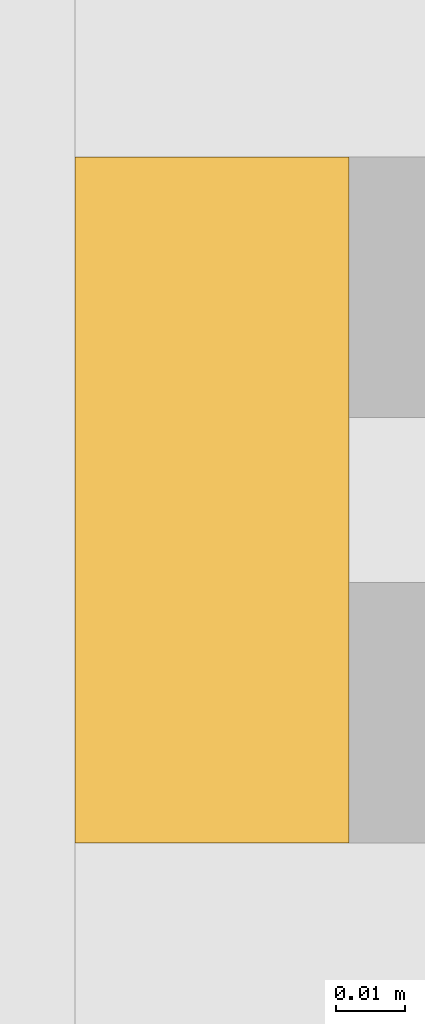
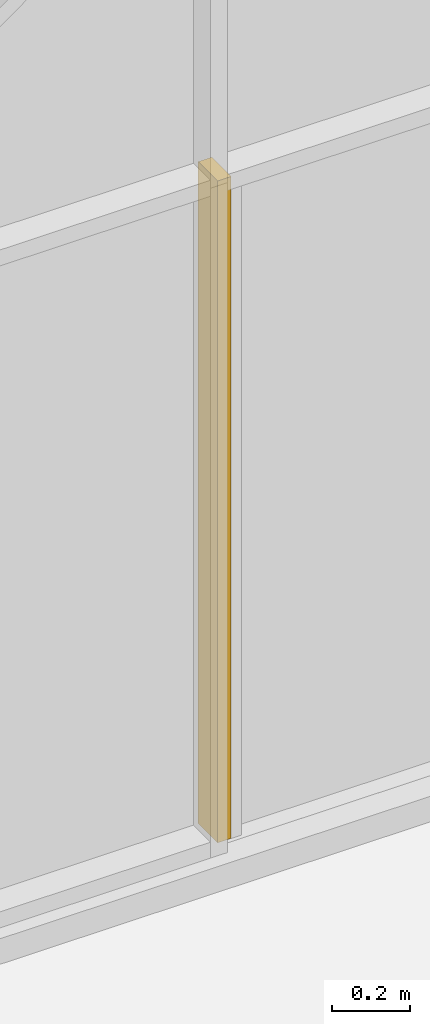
# One storey, part 74 of 100: 1 curtain wall, 1 opening, 1 element without a shape of its own.
"""IFC2X3 building model written with IfcOpenShell, lengths in millimetres."""

from ifc_helpers import new_model, entity, si_unit, converted_unit, derived_unit, direction, frame, frame_2d, origin, place, context, subcontext, project, spatial, rectangle, extrude, material, layer, layer_set, layer_usage, type_object, element, aggregate, save


model = new_model("IFC2X3")

# Units and contexts
model_context = context("Model", 3, precision=0.01, world=origin(), true_north=direction((6.123031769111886e-17, 1.0)))
body_context = subcontext(model_context, "Body", "Model", "MODEL_VIEW")
ifc_project = project(units=[si_unit("LENGTHUNIT", "METRE", prefix="MILLI"), si_unit("AREAUNIT", "SQUARE_METRE"), si_unit("VOLUMEUNIT", "CUBIC_METRE"), converted_unit("PLANEANGLEUNIT", "DEGREE", entity("IfcRatioMeasure", 0.017453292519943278), si_unit("PLANEANGLEUNIT", "RADIAN"), dimensions=[0, 0, 0, 0, 0, 0, 0]), si_unit("MASSUNIT", "GRAM", prefix="KILO"), derived_unit("MASSDENSITYUNIT", [(si_unit("MASSUNIT", "GRAM", prefix="KILO"), 1), (si_unit("LENGTHUNIT", "METRE"), -3)]), derived_unit("MOMENTOFINERTIAUNIT", [(si_unit("LENGTHUNIT", "METRE"), 4)]), si_unit("TIMEUNIT", "SECOND"), si_unit("FREQUENCYUNIT", "HERTZ"), si_unit("THERMODYNAMICTEMPERATUREUNIT", "DEGREE_CELSIUS"), derived_unit("THERMALTRANSMITTANCEUNIT", [(si_unit("MASSUNIT", "GRAM", prefix="KILO"), 1), (si_unit("THERMODYNAMICTEMPERATUREUNIT", "KELVIN"), -1), (si_unit("TIMEUNIT", "SECOND"), -3)]), derived_unit("VOLUMETRICFLOWRATEUNIT", [(si_unit("LENGTHUNIT", "METRE"), 3), (si_unit("TIMEUNIT", "SECOND"), -1)]), derived_unit("MASSFLOWRATEUNIT", [(si_unit("MASSUNIT", "GRAM", prefix="KILO"), 1), (si_unit("TIMEUNIT", "SECOND"), -1)]), derived_unit("ROTATIONALFREQUENCYUNIT", [(si_unit("TIMEUNIT", "SECOND"), -1)]), si_unit("ELECTRICCURRENTUNIT", "AMPERE"), si_unit("ELECTRICVOLTAGEUNIT", "VOLT"), si_unit("POWERUNIT", "WATT"), si_unit("FORCEUNIT", "NEWTON", prefix="KILO"), si_unit("ILLUMINANCEUNIT", "LUX"), si_unit("LUMINOUSFLUXUNIT", "LUMEN"), si_unit("LUMINOUSINTENSITYUNIT", "CANDELA"), derived_unit("USERDEFINED", [(si_unit("MASSUNIT", "GRAM", prefix="KILO"), -1), (si_unit("LENGTHUNIT", "METRE"), -2), (si_unit("TIMEUNIT", "SECOND"), 3), (si_unit("LUMINOUSFLUXUNIT", "LUMEN"), 1)]), derived_unit("SOUNDPOWERUNIT", [(si_unit("MASSUNIT", "GRAM", prefix="KILO"), 1), (si_unit("LENGTHUNIT", "METRE"), 2), (si_unit("TIMEUNIT", "SECOND"), -3)]), derived_unit("SOUNDPRESSUREUNIT", [(si_unit("MASSUNIT", "GRAM", prefix="KILO"), 1), (si_unit("LENGTHUNIT", "METRE"), -1), (si_unit("TIMEUNIT", "SECOND"), -2)]), derived_unit("LINEARVELOCITYUNIT", [(si_unit("LENGTHUNIT", "METRE"), 1), (si_unit("TIMEUNIT", "SECOND"), -1)]), si_unit("PRESSUREUNIT", "PASCAL"), derived_unit("USERDEFINED", [(si_unit("LENGTHUNIT", "METRE"), -2), (si_unit("MASSUNIT", "GRAM", prefix="KILO"), 1), (si_unit("TIMEUNIT", "SECOND"), -2)]), derived_unit("LINEARFORCEUNIT", [(si_unit("MASSUNIT", "GRAM", prefix="KILO"), 1), (si_unit("LENGTHUNIT", "METRE"), 1), (si_unit("TIMEUNIT", "SECOND"), -2), (si_unit("LENGTHUNIT", "METRE"), -1)]), derived_unit("PLANARFORCEUNIT", [(si_unit("MASSUNIT", "GRAM", prefix="KILO"), 1), (si_unit("LENGTHUNIT", "METRE"), 1), (si_unit("TIMEUNIT", "SECOND"), -2), (si_unit("LENGTHUNIT", "METRE"), -2)])], contexts=[model_context])

# Site, building, storey
site_placement = place(None, frame((-14167.972527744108, -657.2125860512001, 0.0)))
site = spatial("IfcSite", under=ifc_project, at=site_placement, Name="Default", CompositionType="ELEMENT")
building_placement = place(site_placement, origin())
building = spatial("IfcBuilding", under=site, at=building_placement, Name="Sample Building", CompositionType="ELEMENT")
storey_placement = place(building_placement, origin())
storey = spatial("IfcBuildingStorey", under=building, at=storey_placement, Name="지상 1층", CompositionType="ELEMENT", Elevation=0.0)

# Curtain walls, opening
curtain_wall_type_1 = type_object("IfcCurtainWallType", Name="커튼월:CW112-스테인리스 스틸 커튼월", PredefinedType="NOTDEFINED")
curtain_wall_1_placement = place(storey_placement, origin())
curtain_wall_1 = element("IfcCurtainWall", 1, at=curtain_wall_1_placement, inside=storey, type_object=curtain_wall_type_1, Name="커튼월:CW112-스테인리스 스틸 커튼월", ObjectType="커튼월:CW112-스테인리스 스틸 커튼월")
ifc_material = material(Name="KBIMS-콘크리트")
ifc_layer = layer(ifc_material, 100.0)
ifc_layer_set = layer_set([ifc_layer], Name="커튼월:CW112-스테인리스 스틸 커튼월")
ifc_layer_usage = layer_usage(ifc_layer_set, "AXIS2", "NEGATIVE", 50.0)
curtain_wall_type_2 = type_object("IfcCurtainWallType", Name="기본 벽:WA111-철근콘크리트구조 벽 100mm", PredefinedType="NOTDEFINED", material=ifc_layer_set)
curtain_wall_2_placement = place(storey_placement, frame((35742.97249113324, 619.712295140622, 80.0)))
curtain_wall_2 = element("IfcCurtainWall", 2, at=curtain_wall_2_placement, type_object=curtain_wall_type_2, material=ifc_layer_usage, Name="기본 벽:WA111-철근콘크리트구조 벽 100mm", ObjectType="기본 벽:WA111-철근콘크리트구조 벽 100mm", context=body_context, shape_type="SweptSolid", body=[
    extrude(rectangle(XDim=40.0000000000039, YDim=100.0, at=frame_2d((-2.1653789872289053e-12, 6.750155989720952e-14), x_axis=(1.0, 0.0))), frame((20.0, 0.0, 0.0)), (0.0, 0.0, 1.0), 2075.0),
])
opening_placement = place(curtain_wall_2_placement, frame((990.0, 50.0, -25.0)))
element("IfcOpeningElement", 3, at=opening_placement, cuts=curtain_wall_2, Name="DR111-외여닫이문(철재, 일반, 양개):DR111-외여닫이문(유리, 일반, 양개) 950x2100mm:1", ObjectType="Opening", context=body_context, shape_type="SweptSolid", body=[
    extrude(rectangle(XDim=2099.9999999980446, YDim=949.9999999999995, at=frame_2d((1049.9999999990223, 474.9999999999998), x_axis=(1.0, 0.0))), frame((0.0, 0.0, 0.0), z_axis=(0.0, -1.0, 0.0), x_axis=(0.0, 0.0, 1.0)), (0.0, 0.0, 1.0), 100.0),
])
aggregate(curtain_wall_1, [curtain_wall_2])

save(model, "model.ifc")
